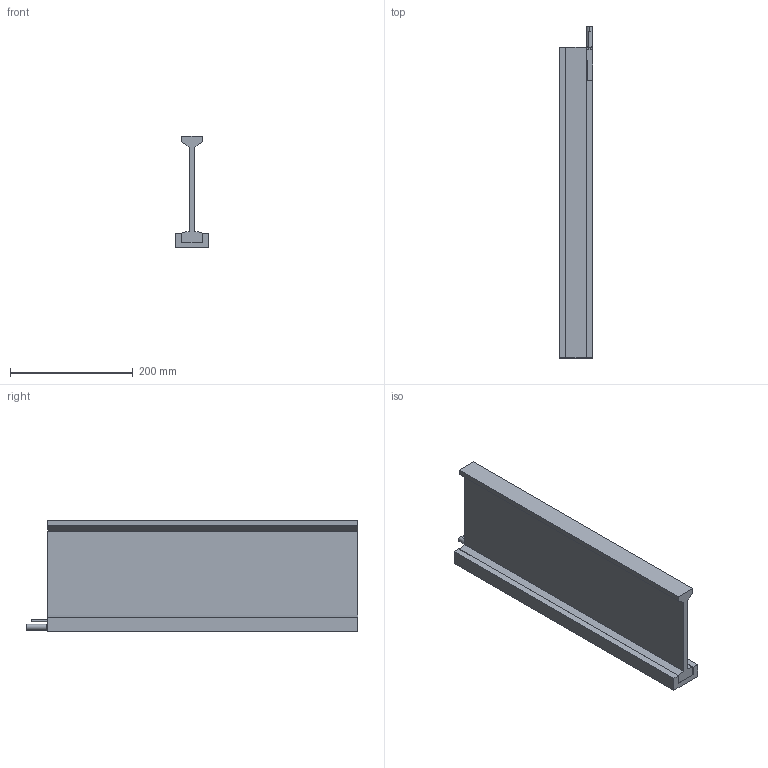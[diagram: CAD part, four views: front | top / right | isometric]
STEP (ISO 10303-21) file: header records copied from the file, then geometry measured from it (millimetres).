
FILE_DESCRIPTION (( 'STEP AP214' ), '1' );
FILE_NAME ('DX140F-C8.STEP', '2021-07-16T04:29:22', ( '' ), ( '' ), 'SwSTEP 2.0', 'SolidWorks 2020', '' );
FILE_SCHEMA (( 'AUTOMOTIVE_DESIGN' ));
Length unit declared in the file: millimetre
Products named in the file (6): HEX SHCS M3x0.5x12(S.S)_B18.3.1M - 3 x 0.5 x 12 Hex SHCS -- 12CHX; DX140FCX01_C8 (CUSTOMER); DX140F-C8; TIM-PC 8850FT-LV (DX140F)_C8; CBL_PWR_D10; DX140FH-X.X-ZZ-00 (CUSTOMER)
Assembly tree (6 placements, depth 2):
  DX140F-C8
    TIM-PC 8850FT-LV (DX140F)_C8
    DX140FCX01_C8 (CUSTOMER)
    HEX SHCS M3x0.5x12(S.S)_B18.3.1M - 3 x 0.5 x 12 Hex SHCS -- 12CHX  x2
    CBL_PWR_D10
    DX140FH-X.X-ZZ-00 (CUSTOMER)
Bounding box: 55 x 540 x 180.6 mm (x, y, z)
Volume: 1566663.8 mm3; surface area: 337032 mm2
Topology: 8 solids, 8 shells, 277 faces, 677 edges, 395 vertices
Faces by surface type: plane 116, cylinder 93, cone 62, torus 6
Entity records: 7417 total; most frequent: DIRECTION 1281, CARTESIAN_POINT 1188, ORIENTED_EDGE 1134, EDGE_CURVE 567, AXIS2_PLACEMENT_3D 455, LINE 371, VECTOR 371, VERTEX_POINT 362
